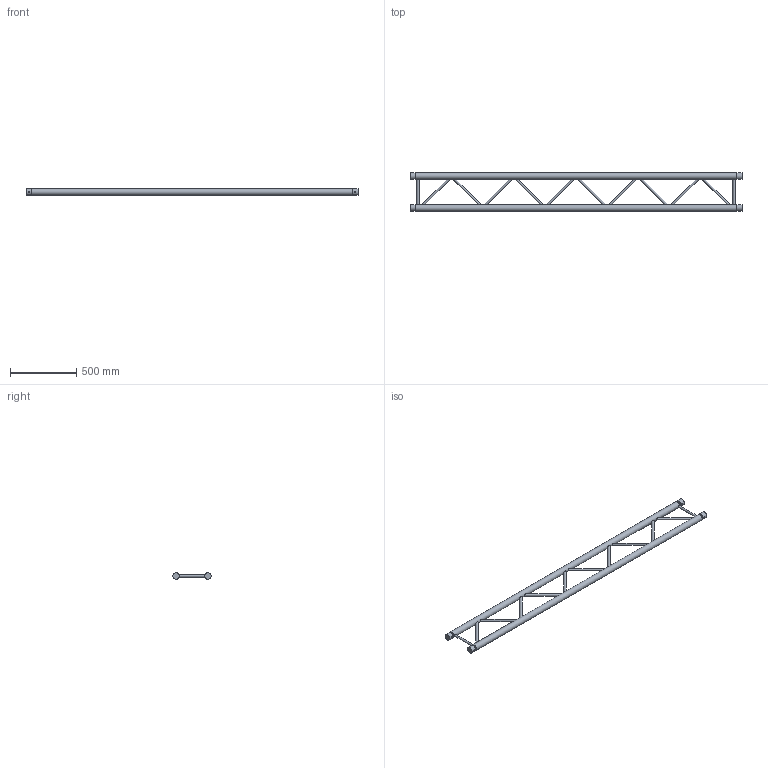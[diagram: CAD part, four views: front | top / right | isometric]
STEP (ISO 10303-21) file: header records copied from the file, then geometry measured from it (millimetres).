
FILE_DESCRIPTION(/* description */ (''),/* implementation_level */ '2;1');
FILE_NAME(/* name */ 'C:\Users\stephan\Desktop\Nieuwe map\H30L\111050048.stp',/* time_stamp */ '2016-09-12T11:57:13+02:00',/* author */ ('Stephan'),/* organization */ (''),/* preprocessor_version */ 'ST-DEVELOPER v15.6',/* originating_system */ 'Autodesk Inventor 2015',/* authorisation */ '');
FILE_SCHEMA (('AUTOMOTIVE_DESIGN { 1 0 10303 214 3 1 1 }'));
Length unit declared in the file: millimetre
Products named in the file (1): 160026972
Bounding box: 2500 x 287.3 x 48.3 mm (x, y, z)
Volume: 3014385.5 mm3; surface area: 1588015.7 mm2
Topology: 14 solids, 16 shells, 116 faces, 212 edges, 132 vertices
Faces by surface type: plane 64, cylinder 48, cone 4
Full cylindrical faces by diameter (mm): 10 x4, 16 x12, 41.8 x4, 42.3 x2, 48.3 x6
Entity records: 3118 total; most frequent: CARTESIAN_POINT 885, DIRECTION 390, ORIENTED_EDGE 360, EDGE_CURVE 176, AXIS2_PLACEMENT_3D 173, EDGE_LOOP 168, VERTEX_POINT 132, STYLED_ITEM 97
